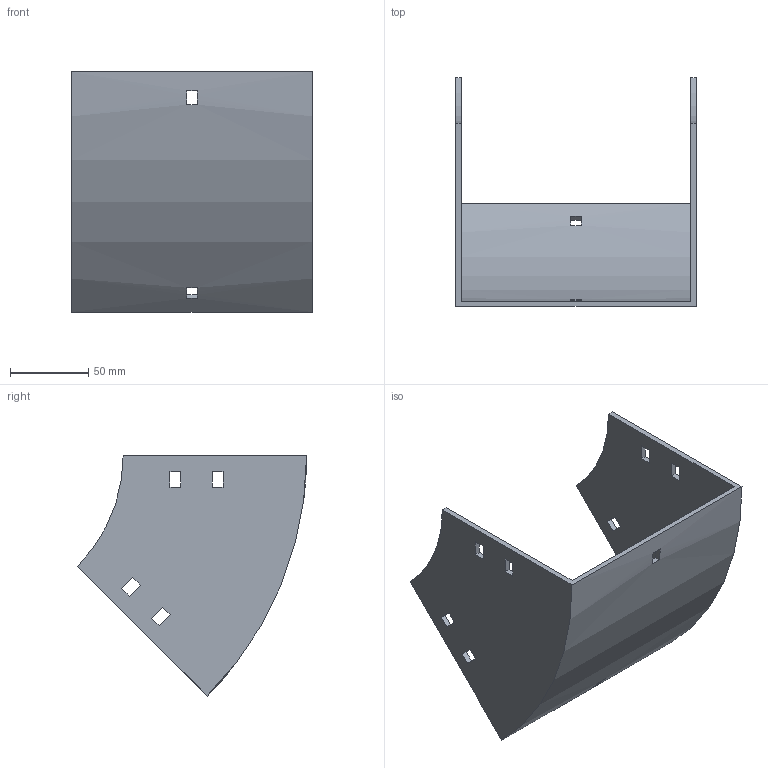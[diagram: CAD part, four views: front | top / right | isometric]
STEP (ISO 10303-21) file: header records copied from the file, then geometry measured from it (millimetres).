
FILE_DESCRIPTION (( 'STEP AP214' ), '1' );
FILE_NAME ('31B1J150.step', '2025-02-21T09:46:02', ( '' ), ( '' ), 'SwSTEP 2.0', 'SolidWorks 2023', '' );
FILE_SCHEMA (( 'AUTOMOTIVE_DESIGN' ));
Length unit declared in the file: millimetre
Products named in the file (1): 31B1J150
Bounding box: 154 x 146.79 x 153.8 mm (x, y, z)
Volume: 187362 mm3; surface area: 111467.1 mm2
Topology: 1 solids, 1 shells, 50 faces, 144 edges, 96 vertices
Faces by surface type: plane 46, cylinder 4
Entity records: 1687 total; most frequent: CARTESIAN_POINT 291, ORIENTED_EDGE 288, DIRECTION 262, EDGE_CURVE 144, LINE 128, VECTOR 128, VERTEX_POINT 96, EDGE_LOOP 70
